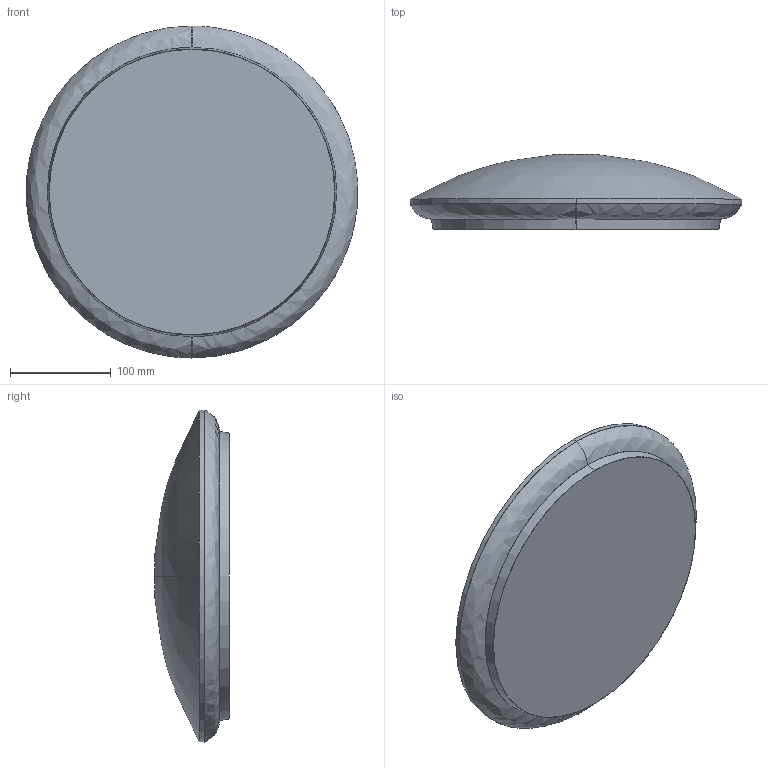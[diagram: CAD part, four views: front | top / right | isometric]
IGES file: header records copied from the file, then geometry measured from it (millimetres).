
Start section: SolidWorks IGES file using analytic representation for surfaces
Global section: file name: C:\Users\danielet\Desktop\3D CARLOS\LIVE-P3631-3D\LIVE-P3631-3D.IGS; native system: SolidWorks 2018; preprocessor: SolidWorks 2018; author: danielet; date: 220105.100242; units: millimetre
Bounding box: 330 x 74.38 x 330 mm (x, y, z)
Surface area: 204762.8 mm2 (no closed solid volume)
Topology: 0 solids, 0 shells, 12 faces, 176 edges, 176 vertices
Faces by surface type: revolution 8, bspline 4
